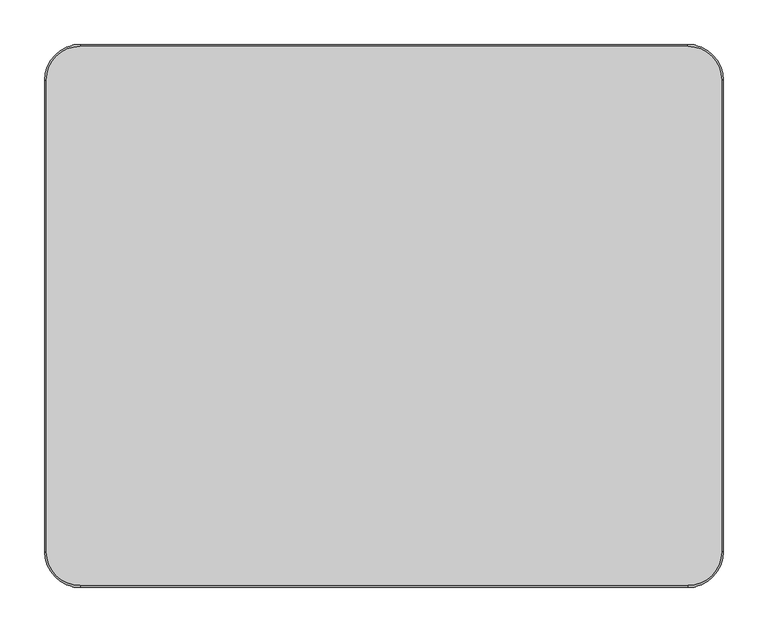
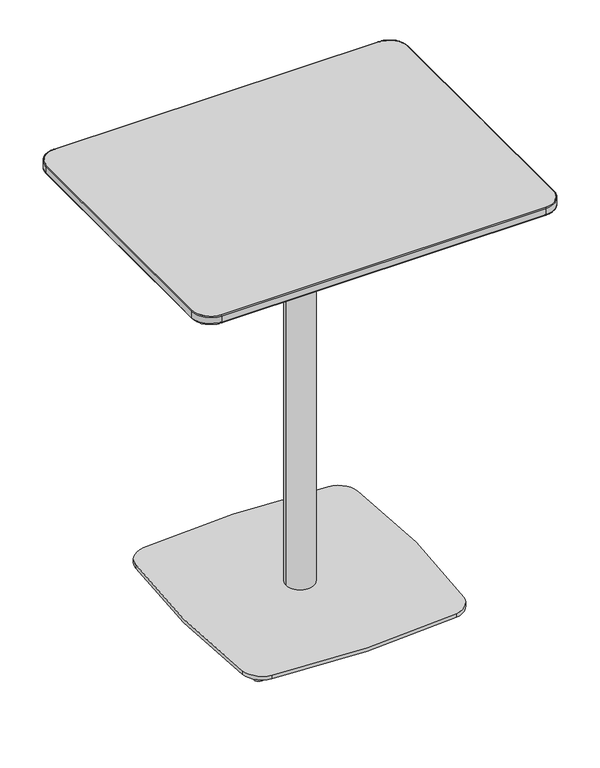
"""IFC4 building model written with IfcOpenShell, lengths in millimetres: furniture geometry, Coalesse_AM_Table_Occasional_Montara650Table_CafeHeight_Rectangular : Counter Height - 24D x 30W."""

import ifcopenshell
import ifcopenshell.guid

model = None  # the IFC model being written
_history = None  # IfcOwnerHistory: only IFC2X3 demands one
_inside = {}  # id of a spatial element -> (the spatial element, [elements in it])
_under = {}  # id of a project, library or spatial element -> (it, [spatial elements below it])
_declared = {}  # id of a project -> (the project, [libraries it declares])
_typed = {}  # id of a type object -> (the type object, [elements of that type])
_made_of = {}  # id of a material, layer set ... -> (it, [elements and type objects made of it])


def new_model(schema):
    """Start an empty IFC model of exactly this schema.

    Asked for "IFC4X3", IfcOpenShell would pick the latest addendum, in which some entities
    have other attributes; the version numbers below select the first issue.
    IFC2X3 requires an IfcOwnerHistory on every rooted entity: one is made here for all.
    """
    global model, _history
    if schema == "IFC4X3":
        model = ifcopenshell.file(schema_version=(4, 3, 0, 0))
    else:
        model = ifcopenshell.file(schema=schema)
    _inside.clear()
    _under.clear()
    _declared.clear()
    _typed.clear()
    _made_of.clear()
    _history = None
    if model.schema == "IFC2X3":
        org = make("IfcOrganization", Name="unknown")
        user = make(
            "IfcPersonAndOrganization",
            ThePerson=make("IfcPerson", FamilyName="unknown"),
            TheOrganization=org,
        )
        app = make(
            "IfcApplication",
            ApplicationDeveloper=org,
            Version="unknown",
            ApplicationFullName="unknown",
            ApplicationIdentifier="unknown",
        )
        _history = make(
            "IfcOwnerHistory",
            OwningUser=user,
            OwningApplication=app,
            ChangeAction="ADDED",
            CreationDate=0,
        )
    return model


def make(cls, **values):
    """One entity of the class cls with the attributes given. An attribute that is None is left unset."""
    return model.create_entity(
        cls, **{name: value for name, value in values.items() if value is not None}
    )


def rooted(cls, **values):
    """An entity with a GlobalId (a new one), such as an element, a storey or a relation."""
    return make(cls, GlobalId=ifcopenshell.guid.new(), OwnerHistory=_history, **values)


def si_unit(unit_type, name, prefix=None):
    """IfcSIUnit, for example si_unit("LENGTHUNIT", "METRE", prefix="MILLI")."""
    return make("IfcSIUnit", UnitType=unit_type, Prefix=prefix, Name=name)


def assignment(units):
    """IfcUnitAssignment: the units of a project."""
    return None if units is None else make("IfcUnitAssignment", Units=units)


def point(xyz):
    """IfcCartesianPoint."""
    return None if xyz is None else make("IfcCartesianPoint", Coordinates=xyz)


def direction(xyz):
    """IfcDirection."""
    return None if xyz is None else make("IfcDirection", DirectionRatios=xyz)


def frame(location, z_axis=None, x_axis=None):
    """IfcAxis2Placement3D, a coordinate frame: its origin and axes. An axis left out is left unset."""
    return make(
        "IfcAxis2Placement3D",
        Location=point(location),
        Axis=direction(z_axis),
        RefDirection=direction(x_axis),
    )


def frame_2d(location, x_axis=None):
    """IfcAxis2Placement2D, a coordinate frame in the plane: its origin and x axis."""
    return make(
        "IfcAxis2Placement2D", Location=point(location), RefDirection=direction(x_axis)
    )


def origin():
    """The frame at (0, 0, 0) with its axes left unset."""
    return frame((0.0, 0.0, 0.0))


def place(relative_to, where):
    """IfcLocalPlacement: puts the frame where relative to a parent placement (None: the world)."""
    return make(
        "IfcLocalPlacement", PlacementRelTo=relative_to, RelativePlacement=where
    )


def context(
    kind, dimensions, precision=None, world=None, true_north=None, identifier=None
):
    """IfcGeometricRepresentationContext, for example the 3D "Model" context."""
    return make(
        "IfcGeometricRepresentationContext",
        ContextIdentifier=identifier,
        ContextType=kind,
        CoordinateSpaceDimension=dimensions,
        Precision=precision,
        WorldCoordinateSystem=world,
        TrueNorth=true_north,
    )


def project(units=None, contexts=None):
    """IfcProject with its units and contexts."""
    return rooted(
        "IfcProject",
        Name="project",
        RepresentationContexts=contexts,
        UnitsInContext=assignment(units),
    )


def spatial(cls, under=None, at=None, **own):
    """A site, building, storey or space (cls), placed at a placement, below another one or the project."""
    s = rooted(cls, ObjectPlacement=at, **own)
    if under is not None:
        _under.setdefault(under.id(), (under, []))[1].append(s)
    return s


def polyline(points):
    """IfcPolyline through the points."""
    return make("IfcPolyline", Points=[point(p) for p in points])


def circle_curve(where, radius):
    """IfcCircle in the frame where."""
    return make("IfcCircle", Position=where, Radius=radius)


def ellipse_curve(where, semi_axis1, semi_axis2):
    """IfcEllipse in the frame where."""
    return make(
        "IfcEllipse", Position=where, SemiAxis1=semi_axis1, SemiAxis2=semi_axis2
    )


def trimmed(basis, trim1, trim2, sense, master):
    """IfcTrimmedCurve: the piece of a basis curve between two trims."""
    return make(
        "IfcTrimmedCurve",
        BasisCurve=basis,
        Trim1=trim1,
        Trim2=trim2,
        SenseAgreement=sense,
        MasterRepresentation=master,
    )


def segment(curve, same_sense, transition):
    """IfcCompositeCurveSegment."""
    return make(
        "IfcCompositeCurveSegment",
        Transition=transition,
        SameSense=same_sense,
        ParentCurve=curve,
    )


def composite_curve(segments, self_intersect=None):
    """IfcCompositeCurve: segments joined end to end."""
    return make("IfcCompositeCurve", Segments=segments, SelfIntersect=self_intersect)


def outline(outer, holes=None, kind="AREA"):
    """IfcArbitraryClosedProfileDef: a profile drawn as a closed curve; with holes, ...WithVoids."""
    if holes is None:
        return make("IfcArbitraryClosedProfileDef", ProfileType=kind, OuterCurve=outer)
    return make(
        "IfcArbitraryProfileDefWithVoids",
        ProfileType=kind,
        OuterCurve=outer,
        InnerCurves=holes,
    )


def extrude(swept, where, along, depth):
    """IfcExtrudedAreaSolid: the profile swept, set in the frame where, extruded along a direction by depth."""
    return make(
        "IfcExtrudedAreaSolid",
        SweptArea=swept,
        Position=where,
        ExtrudedDirection=direction(along),
        Depth=depth,
    )


def shape(context_of_items, identifier, shape_type, items):
    """IfcShapeRepresentation: the items that make up one representation, for example the "Body"."""
    return make(
        "IfcShapeRepresentation",
        ContextOfItems=context_of_items,
        RepresentationIdentifier=identifier,
        RepresentationType=shape_type,
        Items=items,
    )


def source(mapping_origin, context_of_items, identifier, shape_type, items):
    """IfcRepresentationMap: a shape defined once, which mapped items show again and again."""
    return make(
        "IfcRepresentationMap",
        MappingOrigin=mapping_origin,
        MappedRepresentation=shape(context_of_items, identifier, shape_type, items),
    )


def transform(
    local_origin,
    x_axis=None,
    y_axis=None,
    z_axis=None,
    scale=None,
    scale2=None,
    scale3=None,
    uniform=True,
):
    """IfcCartesianTransformationOperator3D, or its non-uniform kind. x_axis, y_axis, z_axis: its Axis1, 2, 3."""
    if uniform:
        return make(
            "IfcCartesianTransformationOperator3D",
            Axis1=direction(x_axis),
            Axis2=direction(y_axis),
            LocalOrigin=point(local_origin),
            Scale=scale,
            Axis3=direction(z_axis),
        )
    return make(
        "IfcCartesianTransformationOperator3DnonUniform",
        Axis1=direction(x_axis),
        Axis2=direction(y_axis),
        LocalOrigin=point(local_origin),
        Scale=scale,
        Axis3=direction(z_axis),
        Scale2=scale2,
        Scale3=scale3,
    )


def mapped(mapping_source, mapping_target):
    """IfcMappedItem: shows the shape of a source again, moved by a transform."""
    return make(
        "IfcMappedItem", MappingSource=mapping_source, MappingTarget=mapping_target
    )


def made_of(thing, what):
    """Note that an element or type object is made of a material, layer set ...; save() writes the relation."""
    if what is not None:
        _made_of.setdefault(what.id(), (what, []))[1].append(thing)
    return thing


def element(
    cls,
    number,
    at=None,
    inside=None,
    cuts=None,
    type_object=None,
    material=None,
    context=None,
    identifier="Body",
    shape_type=None,
    held_by="IfcProductDefinitionShape",
    body=None,
    shapes=None,
    **own,
):
    """One element of the class cls, such as IfcWall. Its Tag is "e" and its number.

    at: its placement. inside: the storey or other place that contains it. cuts: it is an
    opening in that element (IfcRelVoidsElement). A single representation is given by context,
    identifier, shape_type and body (its items); several are given by shapes. held_by: the class
    of the entity that holds the representations. save() writes the other relations.
    """
    e = rooted(cls, Tag="e%d" % number, ObjectPlacement=at, **own)
    if body is not None:
        shapes = [shape(context, identifier, shape_type, body)]
    if shapes is not None:
        e.Representation = make(held_by, Representations=shapes)
    if inside is not None:
        _inside.setdefault(inside.id(), (inside, []))[1].append(e)
    if cuts is not None:
        rooted(
            "IfcRelVoidsElement", RelatingBuildingElement=cuts, RelatedOpeningElement=e
        )
    if type_object is not None:
        _typed.setdefault(type_object.id(), (type_object, []))[1].append(e)
    return made_of(e, material)


def aggregate(whole, parts):
    """IfcRelAggregates: a whole, such as a stair, and the parts it consists of."""
    return rooted("IfcRelAggregates", RelatingObject=whole, RelatedObjects=parts)


def save(model, path):
    """Write the relations noted so far, then the file.

    IfcRelAggregates (storeys below a building ...), IfcRelContainedInSpatialStructure (elements
    in a storey), IfcRelDefinesByType, IfcRelAssociatesMaterial and IfcRelDeclares: one each for
    every whole, place, type object, material and project.
    """
    for whole, parts in _under.values():
        aggregate(whole, parts)
    for where, things in _inside.values():
        rooted(
            "IfcRelContainedInSpatialStructure",
            RelatedElements=things,
            RelatingStructure=where,
        )
    for kind, things in _typed.values():
        rooted("IfcRelDefinesByType", RelatedObjects=things, RelatingType=kind)
    for what, things in _made_of.values():
        rooted("IfcRelAssociatesMaterial", RelatedObjects=things, RelatingMaterial=what)
    for by, libraries in _declared.values():
        rooted("IfcRelDeclares", RelatingContext=by, RelatedDefinitions=libraries)
    model.write(path)


def plane_surface(at):
    """IfcPlane: the flat surface through the origin of the frame at, square to its z axis."""
    return make("IfcPlane", Position=at)


def cylinder_surface(at, radius):
    """IfcCylindricalSurface: all points at the distance radius from the z axis of the frame at."""
    return make("IfcCylindricalSurface", Position=at, Radius=radius)


def revolved_surface(curve, axis_point, axis_direction):
    """IfcSurfaceOfRevolution: the curve turned about the line through axis_point along axis_direction."""
    return make(
        "IfcSurfaceOfRevolution",
        SweptCurve=make("IfcArbitraryOpenProfileDef", ProfileType="CURVE", Curve=curve),
        AxisPosition=make("IfcAxis1Placement", Location=point(axis_point), Axis=direction(axis_direction)),
    )


def spline_surface(u_degree, v_degree, points, u_multiplicities, v_multiplicities, u_knots, v_knots, weights=None):
    """IfcBSplineSurfaceWithKnots; with weights, IfcRationalBSplineSurfaceWithKnots. points: one row for each step in u."""
    own = dict(
        UDegree=u_degree,
        VDegree=v_degree,
        ControlPointsList=[[point(p) for p in row] for row in points],
        SurfaceForm="UNSPECIFIED",
        UClosed=False,
        VClosed=False,
        SelfIntersect=False,
        UMultiplicities=u_multiplicities,
        VMultiplicities=v_multiplicities,
        UKnots=u_knots,
        VKnots=v_knots,
        KnotSpec="UNSPECIFIED",
    )
    if weights is None:
        return make("IfcBSplineSurfaceWithKnots", **own)
    return make("IfcRationalBSplineSurfaceWithKnots", WeightsData=weights, **own)


def advanced_brep(points, edges, surfaces, faces):
    """IfcAdvancedBrep: a solid bounded by faces that lie on surfaces and meet in shared edges.

    An edge is (start, end): straight between two places in points (the first is 0);
    or (start, end, curve); or (start, end, curve, False) where it runs against its curve.
    A face is (place in surfaces, loops), or (place, loops, False) where it looks against
    its surface's normal. A loop lists edges by number (the first is 1), with a minus sign
    where the edge is run from its end to its start. The first loop is the outer one.
    """
    corners = [point(p) for p in points]
    vertices = [make("IfcVertexPoint", VertexGeometry=c) for c in corners]
    made = []
    for start, end, *more in edges:
        made.append(
            make(
                "IfcEdgeCurve",
                EdgeStart=vertices[start],
                EdgeEnd=vertices[end],
                EdgeGeometry=more[0] if more else make("IfcPolyline", Points=[corners[start], corners[end]]),
                SameSense=more[1] if len(more) > 1 else True,
            )
        )
    hull = []
    for where, loops, *sense in faces:
        bounds = []
        for j, loop in enumerate(loops):
            ring = [make("IfcOrientedEdge", EdgeElement=made[abs(k) - 1], Orientation=k > 0) for k in loop]
            bounds.append(
                make(
                    "IfcFaceOuterBound" if j == 0 else "IfcFaceBound",
                    Bound=make("IfcEdgeLoop", EdgeList=ring),
                    Orientation=True,
                )
            )
        hull.append(make("IfcAdvancedFace", Bounds=bounds, FaceSurface=surfaces[where], SameSense=sense[0] if sense else True))
    return make("IfcAdvancedBrep", Outer=make("IfcClosedShell", CfsFaces=hull))


def furniture_5131879e(model_context):
    return source(origin(), model_context, "Body", "SolidModel", [
        advanced_brep(
        [(-738.6535608, 215.2429015, 0.0), (-738.6535608, 194.5411546, 0.0), (-738.6535608, 219.370028, 11.9999882), (-738.6535608, 190.414028, 11.9999882)],
        [
            (0, 1, circle_curve(frame((-738.6535608, 204.892028, 0.0), z_axis=(0.0, 0.0, -1.0), x_axis=(0.0, 1.0, 0.0)), 10.3508735)),
            (1, 0, circle_curve(frame((-738.6535608, 204.892028, 0.0), z_axis=(0.0, 0.0, -1.0), x_axis=(0.0, -1.0, 0.0)), 10.3508735)),
            (2, 3, circle_curve(frame((-738.6535608, 204.892028, 11.9999882), z_axis=(0.0, 0.0, 1.0), x_axis=(0.0, -1.0, 0.0)), 14.478)),
            (3, 2, circle_curve(frame((-738.6535608, 204.892028, 11.9999882), z_axis=(0.0, 0.0, 1.0), x_axis=(0.0, 1.0, 0.0)), 14.478)),
            (2, 0),
            (1, 3),
        ],
        [
            plane_surface(frame((-738.6535608, 204.892028, 0.0), z_axis=(0.0, 0.0, -1.0), x_axis=(-1.0, 0.0, 0.0))),
            plane_surface(frame((-738.6535608, 204.892028, 11.9999882), z_axis=(0.0, 0.0, 1.0), x_axis=(-1.0, 0.0, 0.0))),
            revolved_surface(polyline([(-738.6535608, 194.5411545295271, 0.0), (-738.6535608, 190.414028, 11.999988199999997)]), (-738.6535608, 204.892028, -30.0960871), (0.0, 0.0, 1.0)),
            revolved_surface(polyline([(-738.6535608, 215.2429014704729, 0.0), (-738.6535608, 219.370028, 11.999988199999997)]), (-738.6535608, 204.892028, -30.0960871), (0.0, 0.0, 1.0)),
        ],
        [
            (0, [[1, 2]]),
            (1, [[3, 4]]),
            (2, [[-3, 5, -2, 6]]),
            (3, [[-4, -6, -1, -5]]),
        ],
    ),
        advanced_brep(
        [(-738.6535608, -194.5411546, 0.0), (-738.6535608, -215.2429015, 0.0), (-738.6535608, -190.414028, 11.9999882), (-738.6535608, -219.370028, 11.9999882)],
        [
            (0, 1, circle_curve(frame((-738.6535608, -204.892028, 0.0), z_axis=(0.0, 0.0, -1.0), x_axis=(0.0, 1.0, 0.0)), 10.3508735)),
            (1, 0, circle_curve(frame((-738.6535608, -204.892028, 0.0), z_axis=(0.0, 0.0, -1.0), x_axis=(0.0, -1.0, 0.0)), 10.3508735)),
            (2, 3, circle_curve(frame((-738.6535608, -204.892028, 11.9999882), z_axis=(0.0, 0.0, 1.0), x_axis=(0.0, -1.0, 0.0)), 14.478)),
            (3, 2, circle_curve(frame((-738.6535608, -204.892028, 11.9999882), z_axis=(0.0, 0.0, 1.0), x_axis=(0.0, 1.0, 0.0)), 14.478)),
            (3, 1),
            (0, 2),
        ],
        [
            plane_surface(frame((-738.6535608, -204.892028, 0.0), z_axis=(0.0, 0.0, -1.0), x_axis=(-1.0, 0.0, 0.0))),
            plane_surface(frame((-738.6535608, -204.892028, 11.9999882), z_axis=(0.0, 0.0, 1.0), x_axis=(-1.0, 0.0, 0.0))),
            revolved_surface(polyline([(-738.6535608, -194.5411545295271, 0.0), (-738.6535608, -190.414028, 11.999988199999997)]), (-738.6535608, -204.892028, -30.0960871), (0.0, 0.0, 1.0)),
            revolved_surface(polyline([(-738.6535608, -215.2429014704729, 0.0), (-738.6535608, -219.370028, 11.999988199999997)]), (-738.6535608, -204.892028, -30.0960871), (0.0, 0.0, 1.0)),
        ],
        [
            (0, [[1, 2]]),
            (1, [[3, 4]]),
            (2, [[-4, 5, -1, 6]]),
            (3, [[-3, -6, -2, -5]]),
        ],
    ),
        advanced_brep(
        [(-328.1464392, 194.5411546, 0.0), (-328.1464392, 215.2429015, 0.0), (-328.1464392, 190.414028, 11.9999882), (-328.1464392, 219.370028, 11.9999882)],
        [
            (0, 1, circle_curve(frame((-328.1464392, 204.892028, 0.0), z_axis=(0.0, 0.0, -1.0), x_axis=(0.0, -1.0, 0.0)), 10.3508735)),
            (1, 0, circle_curve(frame((-328.1464392, 204.892028, 0.0), z_axis=(0.0, 0.0, -1.0), x_axis=(0.0, 1.0, 0.0)), 10.3508735)),
            (2, 3, circle_curve(frame((-328.1464392, 204.892028, 11.9999882), z_axis=(0.0, 0.0, 1.0), x_axis=(0.0, 1.0, 0.0)), 14.478)),
            (3, 2, circle_curve(frame((-328.1464392, 204.892028, 11.9999882), z_axis=(0.0, 0.0, 1.0), x_axis=(0.0, -1.0, 0.0)), 14.478)),
            (3, 1),
            (0, 2),
        ],
        [
            plane_surface(frame((-328.1464392, 204.892028, 0.0), z_axis=(0.0, 0.0, -1.0), x_axis=(1.0, 0.0, 0.0))),
            plane_surface(frame((-328.1464392, 204.892028, 11.9999882), z_axis=(0.0, 0.0, 1.0), x_axis=(1.0, 0.0, 0.0))),
            revolved_surface(polyline([(-328.1464392, 194.5411545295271, 0.0), (-328.1464392, 190.414028, 11.999988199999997)]), (-328.1464392, 204.892028, -30.0960871), (0.0, 0.0, 1.0)),
            revolved_surface(polyline([(-328.1464392, 215.2429014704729, 0.0), (-328.1464392, 219.370028, 11.999988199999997)]), (-328.1464392, 204.892028, -30.0960871), (0.0, 0.0, 1.0)),
        ],
        [
            (0, [[1, 2]]),
            (1, [[3, 4]]),
            (2, [[-4, 5, -1, 6]]),
            (3, [[-3, -6, -2, -5]]),
        ],
    ),
        advanced_brep(
        [(-328.1464392, -215.2429015, 0.0), (-328.1464392, -194.5411546, 0.0), (-328.1464392, -219.370028, 11.9999882), (-328.1464392, -190.414028, 11.9999882)],
        [
            (0, 1, circle_curve(frame((-328.1464392, -204.892028, 0.0), z_axis=(0.0, 0.0, -1.0), x_axis=(0.0, -1.0, 0.0)), 10.3508735)),
            (1, 0, circle_curve(frame((-328.1464392, -204.892028, 0.0), z_axis=(0.0, 0.0, -1.0), x_axis=(0.0, 1.0, 0.0)), 10.3508735)),
            (2, 3, circle_curve(frame((-328.1464392, -204.892028, 11.9999882), z_axis=(0.0, 0.0, 1.0), x_axis=(0.0, 1.0, 0.0)), 14.478)),
            (3, 2, circle_curve(frame((-328.1464392, -204.892028, 11.9999882), z_axis=(0.0, 0.0, 1.0), x_axis=(0.0, -1.0, 0.0)), 14.478)),
            (2, 0),
            (1, 3),
        ],
        [
            plane_surface(frame((-328.1464392, -204.892028, 0.0), z_axis=(0.0, 0.0, -1.0), x_axis=(1.0, 0.0, 0.0))),
            plane_surface(frame((-328.1464392, -204.892028, 11.9999882), z_axis=(0.0, 0.0, 1.0), x_axis=(1.0, 0.0, 0.0))),
            revolved_surface(polyline([(-328.1464392, -194.5411545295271, 0.0), (-328.1464392, -190.414028, 11.999988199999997)]), (-328.1464392, -204.892028, -30.0960871), (0.0, 0.0, 1.0)),
            revolved_surface(polyline([(-328.1464392, -215.2429014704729, 0.0), (-328.1464392, -219.370028, 11.999988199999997)]), (-328.1464392, -204.892028, -30.0960871), (0.0, 0.0, 1.0)),
        ],
        [
            (0, [[1, 2]]),
            (1, [[3, 4]]),
            (2, [[-3, 5, -2, 6]]),
            (3, [[-4, -6, -1, -5]]),
        ],
    ),
        extrude(outline(composite_curve([segment(trimmed(circle_curve(frame_2d((-344.0811518, 188.9781952)), 44.45), [point((-338.9758413, 233.1340363))], [point((-299.9290283, 194.115557))], False, "CARTESIAN"), True, "CONTINUOUS"), segment(trimmed(circle_curve(frame_2d((-1930.9488879, 4.3367087)), 1642.0236885), [point((-299.9290283, 194.115557))], [point((-300.9116252, -193.704489))], False, "CARTESIAN"), True, "CONTINUOUS"), segment(trimmed(circle_curve(frame_2d((-345.0371496, -188.3434633)), 44.45), [point((-300.9116252, -193.704489))], [point((-339.4996689, -232.4471911))], False, "CARTESIAN"), True, "CONTINUOUS"), segment(trimmed(circle_curve(frame_2d((-537.7367152, 1346.4283112)), 1591.2717488), [point((-339.4996689, -232.4471911))], [point((-727.977927, -233.4305622))], False, "CARTESIAN"), True, "CONTINUOUS"), segment(trimmed(circle_curve(frame_2d((-722.663799, -189.2993652)), 44.45), [point((-727.977927, -233.4305622))], [point((-766.838325, -194.2403925))], False, "CARTESIAN"), True, "CONTINUOUS"), segment(trimmed(circle_curve(frame_2d((969.7397991, 5.89e-05)), 1747.4074894), [point((-766.838325, -194.2403925))], [point((-766.8410299, 194.2163254))], False, "CARTESIAN"), True, "CONTINUOUS"), segment(trimmed(circle_curve(frame_2d((-722.6664351, 189.2759133)), 44.45), [point((-766.8410299, 194.2163254))], [point((-727.7022914, 233.4397294))], False, "CARTESIAN"), True, "CONTINUOUS"), segment(trimmed(circle_curve(frame_2d((-534.6702107, -1459.4269529)), 1703.8365498), [point((-727.7022914, 233.4397294))], [point((-338.9758413, 233.1340363))], False, "CARTESIAN"), True, "CONTINUOUS")], self_intersect=False)), frame((0.0, 0.0, 11.999986), z_axis=(0.0, 0.0, 1.0), x_axis=(1.0, 0.0, 0.0)), (0.0, 0.0, 1.0), 8.0000105),
        advanced_brep(
        [(-217.3373638, 239.8635082, 884.430027), (-217.3373638, -239.8635082, 884.430027), (-849.4626362, -239.8635082, 884.430027), (-849.4626362, 239.8635082, 884.430027), (-192.611375, 302.768, 896.695891), (-874.188625, 302.768, 896.695891), (-912.288625, 264.668, 896.695891), (-912.288625, -264.668, 896.695891), (-874.188625, -302.768, 896.695891), (-192.611375, -302.768, 896.695891), (-154.511375, -264.668, 896.695891), (-154.511375, 264.668, 896.695891)],
        [
            (0, 1),
            (1, 2),
            (2, 3),
            (3, 0),
            (4, 5),
            (5, 6, circle_curve(frame((-874.188625, 264.668, 896.695891), z_axis=(0.0, 0.0, 1.0), x_axis=(1.0, 0.0, 0.0)), 38.1)),
            (6, 7),
            (7, 8, circle_curve(frame((-874.188625, -264.668, 896.695891), z_axis=(0.0, 0.0, 1.0), x_axis=(1.0, 0.0, 0.0)), 38.1)),
            (8, 9),
            (9, 10, circle_curve(frame((-192.611375, -264.668, 896.695891), z_axis=(0.0, 0.0, 1.0), x_axis=(1.0, 0.0, 0.0)), 38.1)),
            (10, 11),
            (11, 4, circle_curve(frame((-192.611375, 264.668, 896.695891), z_axis=(0.0, 0.0, 1.0), x_axis=(1.0, 0.0, 0.0)), 38.1)),
            (11, 0),
            (0, 4),
            (10, 1),
            (9, 1),
            (8, 2),
            (7, 2),
            (6, 3),
            (5, 3),
        ],
        [
            plane_surface(frame((-533.4, 0.0, 884.430027), z_axis=(0.0, 0.0, -1.0), x_axis=(-1.0, 0.0, 0.0))),
            plane_surface(frame((-533.4, 0.0, 896.695891), z_axis=(0.0, 0.0, 1.0), x_axis=(-1.0, 0.0, 0.0))),
            spline_surface(2, 1, [[(-192.611375, 302.768, 896.695891), (-217.3373638, 239.8635082, 884.430027)], [(-154.51137500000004, 302.7679999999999, 896.695891), (-217.3373638, 239.8635082, 884.430027)], [(-154.511375, 264.668, 896.695891), (-217.3373638, 239.8635082, 884.430027)]], [3, 3], [2, 2], [0.0, 1.0], [0.0, 1.0], weights=[[1.0, 1.0], [0.7071067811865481, 0.7071067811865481], [1.0, 1.0]]),
            plane_surface(frame((-154.511375, 0.0, 896.695891), z_axis=(0.1916177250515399, 0.0, -0.9814696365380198), x_axis=(0.0, -1.0, 0.0))),
            spline_surface(2, 1, [[(-154.511375, -264.668, 896.695891), (-217.3373638, -239.8635082, 884.430027)], [(-154.51137499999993, -302.76800000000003, 896.695891), (-217.3373638, -239.8635082, 884.430027)], [(-192.611375, -302.768, 896.695891), (-217.3373638, -239.8635082, 884.430027)]], [3, 3], [2, 2], [0.0, 1.0], [0.0, 1.0], weights=[[1.0, 1.0], [0.707106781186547, 0.707106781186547], [1.0, 1.0]]),
            plane_surface(frame((-533.4, -302.768, 896.695891), z_axis=(0.0, -0.1913873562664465, -0.9815145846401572), x_axis=(-1.0, 0.0, 0.0))),
            spline_surface(2, 1, [[(-874.188625, -302.768, 896.695891), (-849.4626362, -239.8635082, 884.430027)], [(-912.2886249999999, -302.7679999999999, 896.695891), (-849.4626362, -239.8635082, 884.430027)], [(-912.288625, -264.668, 896.695891), (-849.4626362, -239.8635082, 884.430027)]], [3, 3], [2, 2], [0.0, 1.0], [0.0, 1.0], weights=[[1.0, 1.0], [0.7071067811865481, 0.7071067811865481], [1.0, 1.0]]),
            plane_surface(frame((-912.288625, 0.0, 896.695891), z_axis=(-0.19161772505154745, 0.0, -0.9814696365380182), x_axis=(0.0, 1.0, 0.0))),
            spline_surface(2, 1, [[(-912.288625, 264.668, 896.695891), (-849.4626362, 239.8635082, 884.430027)], [(-912.2886250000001, 302.76800000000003, 896.695891), (-849.4626362, 239.8635082, 884.430027)], [(-874.188625, 302.768, 896.695891), (-849.4626362, 239.8635082, 884.430027)]], [3, 3], [2, 2], [0.0, 1.0], [0.0, 1.0], weights=[[1.0, 1.0], [0.707106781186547, 0.707106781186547], [1.0, 1.0]]),
            plane_surface(frame((-533.4, 302.768, 896.695891), z_axis=(0.0, 0.1913873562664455, -0.9815145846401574), x_axis=(1.0, 0.0, 0.0))),
        ],
        [
            (0, [[1, 2, 3, 4]]),
            (1, [[5, 6, 7, 8, 9, 10, 11, 12]]),
            (2, [[-12, 13, 14]]),
            (3, [[-11, 15, -1, -13]]),
            (4, [[-10, 16, -15]]),
            (5, [[-9, 17, -2, -16]]),
            (6, [[-8, 18, -17]]),
            (7, [[-7, 19, -3, -18]]),
            (8, [[-6, 20, -19]]),
            (9, [[-5, -14, -4, -20]]),
        ],
    ),
        extrude(outline(composite_curve([segment(trimmed(circle_curve(frame_2d((-192.611375, 264.668)), 38.1), [point((-192.611375, 302.768))], [point((-154.511375, 264.668))], False, "CARTESIAN"), True, "CONTINUOUS"), segment(polyline([(-154.511375, 264.668), (-154.511375, -264.668)]), True, "CONTINUOUS"), segment(trimmed(circle_curve(frame_2d((-192.611375, -264.668)), 38.1), [point((-154.511375, -264.668))], [point((-192.611375, -302.768))], False, "CARTESIAN"), True, "CONTINUOUS"), segment(polyline([(-192.611375, -302.768), (-874.188625, -302.768)]), True, "CONTINUOUS"), segment(trimmed(circle_curve(frame_2d((-874.188625, -264.668)), 38.1), [point((-874.188625, -302.768))], [point((-912.288625, -264.668))], False, "CARTESIAN"), True, "CONTINUOUS"), segment(polyline([(-912.288625, -264.668), (-912.288625, 264.668)]), True, "CONTINUOUS"), segment(trimmed(circle_curve(frame_2d((-874.188625, 264.668)), 38.1), [point((-912.288625, 264.668))], [point((-874.188625, 302.768))], False, "CARTESIAN"), True, "CONTINUOUS"), segment(polyline([(-874.188625, 302.768), (-192.611375, 302.768)]), True, "CONTINUOUS")], self_intersect=False)), frame((0.0, 0.0, 896.695891), z_axis=(0.0, 0.0, 1.0), x_axis=(1.0, 0.0, 0.0)), (0.0, 0.0, 1.0), 17.704109),
        advanced_brep(
        [(-914.3644915, 264.668, 898.6278467), (-874.188625, 304.8438665, 898.6278467), (-874.188625, 302.768, 896.695891), (-912.288625, 264.668, 896.695891), (-914.3644915, 264.668, 912.3999283), (-874.188625, 304.8438665, 912.3999283), (-912.288625, 264.668, 914.4), (-874.188625, 302.768, 914.4), (-912.288625, -264.668, 896.695891), (-914.3644915, -264.668, 898.6278467), (-914.3644915, -264.668, 912.3999283), (-912.288625, -264.668, 914.4), (-874.188625, -304.8438665, 898.6278467), (-874.188625, -302.768, 896.695891), (-874.188625, -304.8438665, 912.3999283), (-874.188625, -302.768, 914.4), (-192.611375, -302.768, 896.695891), (-192.611375, -304.8438665, 898.6278467), (-192.611375, -304.8438665, 912.3999283), (-192.611375, -302.768, 914.4), (-152.4355085, -264.668, 898.6278467), (-154.511375, -264.668, 896.695891), (-152.4355085, -264.668, 912.3999283), (-154.511375, -264.668, 914.4), (-154.511375, 264.668, 896.695891), (-152.4355085, 264.668, 898.6278467), (-152.4355085, 264.668, 912.3999283), (-154.511375, 264.668, 914.4), (-192.611375, 304.8438665, 898.6278467), (-192.611375, 302.768, 896.695891), (-192.611375, 304.8438665, 912.3999283), (-192.611375, 302.768, 914.4)],
        [
            (0, 1, circle_curve(frame((-874.188625, 264.668, 898.6278467), z_axis=(0.0, 0.0, -1.0), x_axis=(0.0, 1.0, 0.0)), 40.1758665)),
            (1, 2, circle_curve(frame((-874.188625, 302.9069224, 898.6278467), z_axis=(-1.0, 0.0, 0.0), x_axis=(0.0, -1.0, 0.0)), 1.9369441)),
            (2, 3, circle_curve(frame((-874.188625, 264.668, 896.695891), z_axis=(0.0, 0.0, 1.0), x_axis=(0.0, 1.0, 0.0)), 38.1)),
            (3, 0, circle_curve(frame((-912.4275474, 264.668, 898.6278467), z_axis=(0.0, 1.0, 0.0), x_axis=(1.0, 0.0, 0.0)), 1.9369441)),
            (4, 5, circle_curve(frame((-874.188625, 264.668, 912.3999283), z_axis=(0.0, 0.0, -1.0), x_axis=(0.0, 1.0, 0.0)), 40.1758665)),
            (5, 1),
            (0, 4),
            (6, 7, circle_curve(frame((-874.188625, 264.668, 914.4), z_axis=(0.0, 0.0, -1.0), x_axis=(0.0, 1.0, 0.0)), 38.1)),
            (7, 5, circle_curve(frame((-874.188625, 302.8424111, 912.3999283), z_axis=(-1.0, 0.0, 0.0), x_axis=(0.0, -1.0, 0.0)), 2.0014554)),
            (4, 6, circle_curve(frame((-912.3630361, 264.668, 912.3999283), z_axis=(0.0, 1.0, 0.0), x_axis=(1.0, 0.0, 0.0)), 2.0014554)),
            (2, 7),
            (6, 3),
            (3, 8),
            (8, 9, circle_curve(frame((-912.4275474, -264.668, 898.6278467), z_axis=(0.0, 1.0, 0.0), x_axis=(1.0, 0.0, 0.0)), 1.9369441)),
            (9, 0),
            (9, 10),
            (10, 4),
            (10, 11, circle_curve(frame((-912.3630361, -264.668, 912.3999283), z_axis=(0.0, 1.0, 0.0), x_axis=(1.0, 0.0, 0.0)), 2.0014554)),
            (11, 6),
            (11, 8),
            (12, 9, circle_curve(frame((-874.188625, -264.668, 898.6278467), z_axis=(0.0, 0.0, -1.0), x_axis=(-1.0, 0.0, 0.0)), 40.1758665)),
            (8, 13, circle_curve(frame((-874.188625, -264.668, 896.695891), z_axis=(0.0, 0.0, 1.0), x_axis=(-1.0, 0.0, 0.0)), 38.1)),
            (13, 12, circle_curve(frame((-874.188625, -302.9069224, 898.6278467), z_axis=(-1.0, 0.0, 0.0), x_axis=(0.0, 1.0, 0.0)), 1.9369441)),
            (14, 10, circle_curve(frame((-874.188625, -264.668, 912.3999283), z_axis=(0.0, 0.0, -1.0), x_axis=(-1.0, 0.0, 0.0)), 40.1758665)),
            (12, 14),
            (15, 11, circle_curve(frame((-874.188625, -264.668, 914.4), z_axis=(0.0, 0.0, -1.0), x_axis=(-1.0, 0.0, 0.0)), 38.1)),
            (14, 15, circle_curve(frame((-874.188625, -302.8424111, 912.3999283), z_axis=(-1.0, 0.0, 0.0), x_axis=(0.0, 1.0, 0.0)), 2.0014554)),
            (15, 13),
            (13, 16),
            (16, 17, circle_curve(frame((-192.611375, -302.9069224, 898.6278467), z_axis=(-1.0, 0.0, 0.0), x_axis=(0.0, 1.0, 0.0)), 1.9369441)),
            (17, 12),
            (17, 18),
            (18, 14),
            (18, 19, circle_curve(frame((-192.611375, -302.8424111, 912.3999283), z_axis=(-1.0, 0.0, 0.0), x_axis=(0.0, 1.0, 0.0)), 2.0014554)),
            (19, 15),
            (19, 16),
            (20, 17, circle_curve(frame((-192.611375, -264.668, 898.6278467), z_axis=(0.0, 0.0, -1.0), x_axis=(0.0, -1.0, 0.0)), 40.1758665)),
            (16, 21, circle_curve(frame((-192.611375, -264.668, 896.695891), z_axis=(0.0, 0.0, 1.0), x_axis=(0.0, -1.0, 0.0)), 38.1)),
            (21, 20, circle_curve(frame((-154.3724526, -264.668, 898.6278467), z_axis=(0.0, -1.0, 0.0), x_axis=(-1.0, 0.0, 0.0)), 1.9369441)),
            (22, 18, circle_curve(frame((-192.611375, -264.668, 912.3999283), z_axis=(0.0, 0.0, -1.0), x_axis=(0.0, -1.0, 0.0)), 40.1758665)),
            (20, 22),
            (23, 19, circle_curve(frame((-192.611375, -264.668, 914.4), z_axis=(0.0, 0.0, -1.0), x_axis=(0.0, -1.0, 0.0)), 38.1)),
            (22, 23, circle_curve(frame((-154.4369639, -264.668, 912.3999283), z_axis=(0.0, -1.0, 0.0), x_axis=(-1.0, 0.0, 0.0)), 2.0014554)),
            (23, 21),
            (21, 24),
            (24, 25, circle_curve(frame((-154.3724526, 264.668, 898.6278467), z_axis=(0.0, -1.0, 0.0), x_axis=(-1.0, 0.0, 0.0)), 1.9369441)),
            (25, 20),
            (25, 26),
            (26, 22),
            (26, 27, circle_curve(frame((-154.4369639, 264.668, 912.3999283), z_axis=(0.0, -1.0, 0.0), x_axis=(-1.0, 0.0, 0.0)), 2.0014554)),
            (27, 23),
            (27, 24),
            (28, 25, circle_curve(frame((-192.611375, 264.668, 898.6278467), z_axis=(0.0, 0.0, -1.0), x_axis=(1.0, 0.0, 0.0)), 40.1758665)),
            (24, 29, circle_curve(frame((-192.611375, 264.668, 896.695891), z_axis=(0.0, 0.0, 1.0), x_axis=(1.0, 0.0, 0.0)), 38.1)),
            (29, 28, circle_curve(frame((-192.611375, 302.9069224, 898.6278467), z_axis=(1.0, 0.0, 0.0), x_axis=(0.0, -1.0, 0.0)), 1.9369441)),
            (30, 26, circle_curve(frame((-192.611375, 264.668, 912.3999283), z_axis=(0.0, 0.0, -1.0), x_axis=(1.0, 0.0, 0.0)), 40.1758665)),
            (28, 30),
            (31, 27, circle_curve(frame((-192.611375, 264.668, 914.4), z_axis=(0.0, 0.0, -1.0), x_axis=(1.0, 0.0, 0.0)), 38.1)),
            (30, 31, circle_curve(frame((-192.611375, 302.8424111, 912.3999283), z_axis=(1.0, 0.0, 0.0), x_axis=(0.0, -1.0, 0.0)), 2.0014554)),
            (31, 29),
            (29, 2),
            (1, 28),
            (5, 30),
            (7, 31),
        ],
        [
            revolved_surface(trimmed(ellipse_curve(frame((-874.188625, 302.9069224, 898.6278467), z_axis=(1.0, 0.0, 0.0), x_axis=(0.0, -1.0, 0.0)), 1.9369441, 1.9369441), [point((-874.188625, 302.768, 896.695891))], [point((-874.188625, 304.8438665, 898.6278467))], True, "CARTESIAN"), (-874.188625, 264.668, 0.0), (0.0, 0.0, 1.0)),
            cylinder_surface(frame((-874.188625, 264.668, 0.0), z_axis=(0.0, 0.0, 1.0), x_axis=(0.0, 1.0, 0.0)), 40.1758665),
            revolved_surface(trimmed(ellipse_curve(frame((-874.188625, 302.8424111, 912.3999283), z_axis=(1.0, 0.0, 0.0), x_axis=(0.0, -1.0, 0.0)), 2.0014554, 2.0014554), [point((-874.188625, 304.8438665, 912.3999283))], [point((-874.188625, 302.768, 914.4))], True, "CARTESIAN"), (-874.188625, 264.668, 0.0), (0.0, 0.0, 1.0)),
            revolved_surface(polyline([(-874.188625, 302.76800000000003, 914.4), (-874.188625, 302.76800000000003, 896.695891)]), (-874.188625, 264.668, 0.0), (0.0, 0.0, 1.0)),
            cylinder_surface(frame((-912.4275474, 264.668, 898.6278467), z_axis=(0.0, 1.0, 0.0), x_axis=(1.0, 0.0, 0.0)), 1.9369441),
            plane_surface(frame((-914.3644915, 264.668, 898.6278467), z_axis=(-1.0, 0.0, 0.0), x_axis=(0.0, -1.0, 0.0))),
            cylinder_surface(frame((-912.3630361, 264.668, 912.3999283), z_axis=(0.0, 1.0, 0.0), x_axis=(1.0, 0.0, 0.0)), 2.0014554),
            plane_surface(frame((-912.288625, 264.668, 914.4), z_axis=(1.0, 0.0, 0.0), x_axis=(0.0, -1.0, 0.0))),
            revolved_surface(trimmed(ellipse_curve(frame((-912.4275474, -264.668, 898.6278467), z_axis=(0.0, 1.0, 0.0), x_axis=(1.0, 0.0, 0.0)), 1.9369441, 1.9369441), [point((-912.288625, -264.668, 896.695891))], [point((-914.3644915, -264.668, 898.6278467))], True, "CARTESIAN"), (-874.188625, -264.668, 0.0), (0.0, 0.0, 1.0)),
            cylinder_surface(frame((-874.188625, -264.668, 0.0), z_axis=(0.0, 0.0, 1.0), x_axis=(-1.0, 0.0, 0.0)), 40.1758665),
            revolved_surface(trimmed(ellipse_curve(frame((-912.3630361, -264.668, 912.3999283), z_axis=(0.0, 1.0, 0.0), x_axis=(1.0, 0.0, 0.0)), 2.0014554, 2.0014554), [point((-914.3644915, -264.668, 912.3999283))], [point((-912.288625, -264.668, 914.4))], True, "CARTESIAN"), (-874.188625, -264.668, 0.0), (0.0, 0.0, 1.0)),
            revolved_surface(polyline([(-912.288625, -264.668, 914.4), (-912.288625, -264.668, 896.695891)]), (-874.188625, -264.668, 0.0), (0.0, 0.0, 1.0)),
            cylinder_surface(frame((-874.188625, -302.9069224, 898.6278467), z_axis=(-1.0, 0.0, 0.0), x_axis=(0.0, 1.0, 0.0)), 1.9369441),
            plane_surface(frame((-874.188625, -304.8438665, 898.6278467), z_axis=(0.0, -1.0, 0.0), x_axis=(1.0, 0.0, 0.0))),
            cylinder_surface(frame((-874.188625, -302.8424111, 912.3999283), z_axis=(-1.0, 0.0, 0.0), x_axis=(0.0, 1.0, 0.0)), 2.0014554),
            plane_surface(frame((-874.188625, -302.768, 914.4), z_axis=(0.0, 1.0, 0.0), x_axis=(1.0, 0.0, 0.0))),
            revolved_surface(trimmed(ellipse_curve(frame((-192.611375, -302.9069224, 898.6278467), z_axis=(-1.0, 0.0, 0.0), x_axis=(0.0, 1.0, 0.0)), 1.9369441, 1.9369441), [point((-192.611375, -302.768, 896.695891))], [point((-192.611375, -304.8438665, 898.6278467))], True, "CARTESIAN"), (-192.611375, -264.668, 0.0), (0.0, 0.0, 1.0)),
            cylinder_surface(frame((-192.611375, -264.668, 0.0), z_axis=(0.0, 0.0, 1.0), x_axis=(0.0, -1.0, 0.0)), 40.1758665),
            revolved_surface(trimmed(ellipse_curve(frame((-192.611375, -302.8424111, 912.3999283), z_axis=(-1.0, 0.0, 0.0), x_axis=(0.0, 1.0, 0.0)), 2.0014554, 2.0014554), [point((-192.611375, -304.8438665, 912.3999283))], [point((-192.611375, -302.768, 914.4))], True, "CARTESIAN"), (-192.611375, -264.668, 0.0), (0.0, 0.0, 1.0)),
            revolved_surface(polyline([(-192.611375, -302.76800000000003, 914.4), (-192.611375, -302.76800000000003, 896.695891)]), (-192.611375, -264.668, 0.0), (0.0, 0.0, 1.0)),
            cylinder_surface(frame((-154.3724526, -264.668, 898.6278467), z_axis=(0.0, -1.0, 0.0), x_axis=(-1.0, 0.0, 0.0)), 1.9369441),
            plane_surface(frame((-152.4355085, -264.668, 898.6278467), z_axis=(1.0, 0.0, 0.0), x_axis=(0.0, 1.0, 0.0))),
            cylinder_surface(frame((-154.4369639, -264.668, 912.3999283), z_axis=(0.0, -1.0, 0.0), x_axis=(-1.0, 0.0, 0.0)), 2.0014554),
            plane_surface(frame((-154.511375, -264.668, 914.4), z_axis=(-1.0, 0.0, 0.0), x_axis=(0.0, 1.0, 0.0))),
            revolved_surface(trimmed(ellipse_curve(frame((-154.3724526, 264.668, 898.6278467), z_axis=(0.0, -1.0, 0.0), x_axis=(-1.0, 0.0, 0.0)), 1.9369441, 1.9369441), [point((-154.511375, 264.668, 896.695891))], [point((-152.4355085, 264.668, 898.6278467))], True, "CARTESIAN"), (-192.611375, 264.668, 0.0), (0.0, 0.0, 1.0)),
            cylinder_surface(frame((-192.611375, 264.668, 0.0), z_axis=(0.0, 0.0, 1.0), x_axis=(1.0, 0.0, 0.0)), 40.1758665),
            revolved_surface(trimmed(ellipse_curve(frame((-154.4369639, 264.668, 912.3999283), z_axis=(0.0, -1.0, 0.0), x_axis=(-1.0, 0.0, 0.0)), 2.0014554, 2.0014554), [point((-152.4355085, 264.668, 912.3999283))], [point((-154.511375, 264.668, 914.4))], True, "CARTESIAN"), (-192.611375, 264.668, 0.0), (0.0, 0.0, 1.0)),
            revolved_surface(polyline([(-154.51137500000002, 264.668, 914.4), (-154.51137500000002, 264.668, 896.695891)]), (-192.611375, 264.668, 0.0), (0.0, 0.0, 1.0)),
            cylinder_surface(frame((-192.611375, 302.9069224, 898.6278467), z_axis=(1.0, 0.0, 0.0), x_axis=(0.0, -1.0, 0.0)), 1.9369441),
            plane_surface(frame((-192.611375, 304.8438665, 898.6278467), z_axis=(0.0, 1.0, 0.0), x_axis=(-1.0, 0.0, 0.0))),
            cylinder_surface(frame((-192.611375, 302.8424111, 912.3999283), z_axis=(1.0, 0.0, 0.0), x_axis=(0.0, -1.0, 0.0)), 2.0014554),
            plane_surface(frame((-192.611375, 302.768, 914.4), z_axis=(0.0, -1.0, 0.0), x_axis=(-1.0, 0.0, 0.0))),
        ],
        [
            (0, [[1, 2, 3, 4]]),
            (1, [[5, 6, -1, 7]]),
            (2, [[8, 9, -5, 10]]),
            (3, [[-3, 11, -8, 12]]),
            (4, [[-4, 13, 14, 15]]),
            (5, [[-7, -15, 16, 17]]),
            (6, [[-10, -17, 18, 19]]),
            (7, [[-12, -19, 20, -13]]),
            (8, [[21, -14, 22, 23]]),
            (9, [[24, -16, -21, 25]]),
            (10, [[26, -18, -24, 27]]),
            (11, [[-22, -20, -26, 28]]),
            (12, [[-23, 29, 30, 31]]),
            (13, [[-25, -31, 32, 33]]),
            (14, [[-27, -33, 34, 35]]),
            (15, [[-28, -35, 36, -29]]),
            (16, [[37, -30, 38, 39]]),
            (17, [[40, -32, -37, 41]]),
            (18, [[42, -34, -40, 43]]),
            (19, [[-38, -36, -42, 44]]),
            (20, [[-39, 45, 46, 47]]),
            (21, [[-41, -47, 48, 49]]),
            (22, [[-43, -49, 50, 51]]),
            (23, [[-44, -51, 52, -45]]),
            (24, [[53, -46, 54, 55]]),
            (25, [[56, -48, -53, 57]]),
            (26, [[58, -50, -56, 59]]),
            (27, [[-54, -52, -58, 60]]),
            (28, [[-55, 61, -2, 62]]),
            (29, [[-57, -62, -6, 63]]),
            (30, [[-59, -63, -9, 64]]),
            (31, [[-60, -64, -11, -61]]),
        ],
    ),
        advanced_brep(
        [(-401.7995899, 0.0, 881.255027), (-665.0004101, 0.0, 881.255027), (-709.5626132, 0.0, 881.255027), (-357.2373868, 0.0, 881.255027), (-412.3511338, 0.0, 880.1460151), (-654.4488662, 0.0, 880.1460151), (-484.6538191, 0.0, 865.4837029), (-582.1461809, 0.0, 865.4837029), (-495.987015, 0.0, 865.4837029), (-570.812985, 0.0, 865.4837029), (-503.8504172, 0.0, 19.9999965), (-562.9495828, 0.0, 19.9999965), (-562.9495828, 0.0, 877.2852036), (-503.8504172, 0.0, 877.2852036), (-533.4, 0.0, 19.9999965), (-357.2373868, 0.0, 884.430027), (-709.5626132, 0.0, 884.430027), (-533.4, 0.0, 884.430027), (-500.0488913, 0.0, 866.9383874), (-566.7511087, 0.0, 866.9383874), (-501.687666, 0.0, 877.2852036), (-565.112334, 0.0, 877.2852036)],
        [
            (0, 1, circle_curve(frame((-533.4, 0.0, 881.255027), z_axis=(0.0, 0.0, 1.0), x_axis=(-1.0, 0.0, 0.0)), 131.6004101)),
            (1, 2),
            (2, 3, circle_curve(frame((-533.4, 0.0, 881.255027), z_axis=(0.0, 0.0, -1.0), x_axis=(-1.0, 0.0, 0.0)), 176.1626132)),
            (3, 0),
            (1, 0, circle_curve(frame((-533.4, 0.0, 881.255027), z_axis=(0.0, 0.0, 1.0), x_axis=(-1.0, 0.0, 0.0)), 131.6004101)),
            (3, 2, circle_curve(frame((-533.4, 0.0, 881.255027), z_axis=(0.0, 0.0, -1.0), x_axis=(-1.0, 0.0, 0.0)), 176.1626132)),
            (4, 5, circle_curve(frame((-533.4, 0.0, 880.1460151), z_axis=(0.0, 0.0, 1.0), x_axis=(-1.0, 0.0, 0.0)), 121.0488662)),
            (5, 1),
            (0, 4),
            (5, 4, circle_curve(frame((-533.4, 0.0, 880.1460151), z_axis=(0.0, 0.0, 1.0), x_axis=(-1.0, 0.0, 0.0)), 121.0488662)),
            (6, 7, circle_curve(frame((-533.4, 0.0, 865.4837029), z_axis=(0.0, 0.0, 1.0), x_axis=(-1.0, 0.0, 0.0)), 48.7461809)),
            (7, 5),
            (4, 6),
            (7, 6, circle_curve(frame((-533.4, 0.0, 865.4837029), z_axis=(0.0, 0.0, 1.0), x_axis=(-1.0, 0.0, 0.0)), 48.7461809)),
            (8, 9, circle_curve(frame((-533.4, 0.0, 865.4837029), z_axis=(0.0, 0.0, 1.0), x_axis=(-1.0, 0.0, 0.0)), 37.412985)),
            (9, 7),
            (6, 8),
            (9, 8, circle_curve(frame((-533.4, 0.0, 865.4837029), z_axis=(0.0, 0.0, 1.0), x_axis=(-1.0, 0.0, 0.0)), 37.412985)),
            (10, 11, circle_curve(frame((-533.4, 0.0, 19.9999965), z_axis=(0.0, 0.0, 1.0), x_axis=(-1.0, 0.0, 0.0)), 29.5495828)),
            (11, 12),
            (12, 13, circle_curve(frame((-533.4, 0.0, 877.2852036), z_axis=(0.0, 0.0, -1.0), x_axis=(-1.0, 0.0, 0.0)), 29.5495828)),
            (13, 10),
            (11, 10, circle_curve(frame((-533.4, 0.0, 19.9999965), z_axis=(0.0, 0.0, 1.0), x_axis=(-1.0, 0.0, 0.0)), 29.5495828)),
            (13, 12, circle_curve(frame((-533.4, 0.0, 877.2852036), z_axis=(0.0, 0.0, -1.0), x_axis=(-1.0, 0.0, 0.0)), 29.5495828)),
            (14, 11),
            (10, 14),
            (15, 16, circle_curve(frame((-533.4, 0.0, 884.430027), z_axis=(0.0, 0.0, 1.0), x_axis=(-1.0, 0.0, 0.0)), 176.1626132)),
            (16, 17),
            (17, 15),
            (16, 15, circle_curve(frame((-533.4, 0.0, 884.430027), z_axis=(0.0, 0.0, 1.0), x_axis=(-1.0, 0.0, 0.0)), 176.1626132)),
            (2, 16),
            (15, 3),
            (18, 19, circle_curve(frame((-533.4, 0.0, 866.9383874), z_axis=(0.0, 0.0, 1.0), x_axis=(-1.0, 0.0, 0.0)), 33.3511087)),
            (19, 9),
            (8, 18),
            (19, 18, circle_curve(frame((-533.4, 0.0, 866.9383874), z_axis=(0.0, 0.0, 1.0), x_axis=(-1.0, 0.0, 0.0)), 33.3511087)),
            (20, 21, circle_curve(frame((-533.4, 0.0, 877.2852036), z_axis=(0.0, 0.0, 1.0), x_axis=(-1.0, 0.0, 0.0)), 31.712334)),
            (21, 19),
            (18, 20),
            (21, 20, circle_curve(frame((-533.4, 0.0, 877.2852036), z_axis=(0.0, 0.0, 1.0), x_axis=(-1.0, 0.0, 0.0)), 31.712334)),
            (12, 21),
            (20, 13),
        ],
        [
            plane_surface(frame((-533.4, 0.0, 881.255027), z_axis=(0.0, 0.0, -1.0), x_axis=(-1.0, 0.0, 0.0))),
            revolved_surface(polyline([(-665.0004101, 0.0, 881.255027), (-654.4488662, 0.0, 880.1460151)]), (-533.4, 0.0, 756.5999965), (0.0, 0.0, -1.0)),
            revolved_surface(polyline([(-654.4488662, 0.0, 880.1460151), (-582.1461809, 0.0, 865.4837029)]), (-533.4, 0.0, 756.5999965), (0.0, 0.0, -1.0)),
            plane_surface(frame((-533.4, 0.0, 865.4837029), z_axis=(0.0, 0.0, -1.0), x_axis=(-1.0, 0.0, 0.0))),
            cylinder_surface(frame((-533.4, 0.0, 756.5999965), z_axis=(0.0, 0.0, -1.0), x_axis=(-1.0, 0.0, 0.0)), 29.5495828),
            plane_surface(frame((-533.4, 0.0, 19.9999965), z_axis=(0.0, 0.0, -1.0), x_axis=(-1.0, 0.0, 0.0))),
            plane_surface(frame((-533.4, 0.0, 884.430027), z_axis=(0.0, 0.0, 1.0), x_axis=(-1.0, 0.0, 0.0))),
            cylinder_surface(frame((-533.4, 0.0, 756.5999965), z_axis=(0.0, 0.0, -1.0), x_axis=(-1.0, 0.0, 0.0)), 176.1626132),
            revolved_surface(polyline([(-570.812985, 0.0, 865.4837029), (-566.7511087, 0.0, 866.9383874)]), (-533.4, 0.0, 756.5999965), (0.0, 0.0, -1.0)),
            revolved_surface(polyline([(-566.7511087, 0.0, 866.9383874), (-565.112334, 0.0, 877.2852036)]), (-533.4, 0.0, 756.5999965), (0.0, 0.0, -1.0)),
            plane_surface(frame((-533.4, 0.0, 877.2852036), z_axis=(0.0, 0.0, -1.0), x_axis=(-1.0, 0.0, 0.0))),
        ],
        [
            (0, [[1, 2, 3, 4]]),
            (0, [[5, -4, 6, -2]]),
            (1, [[7, 8, -1, 9]]),
            (1, [[10, -9, -5, -8]]),
            (2, [[11, 12, -7, 13]]),
            (2, [[14, -13, -10, -12]]),
            (3, [[15, 16, -11, 17]]),
            (3, [[18, -17, -14, -16]]),
            (4, [[19, 20, 21, 22]]),
            (4, [[23, -22, 24, -20]]),
            (5, [[25, -19, 26]]),
            (5, [[-26, -23, -25]]),
            (6, [[27, 28, 29]]),
            (6, [[30, -29, -28]]),
            (7, [[-3, 31, -27, 32]]),
            (7, [[-6, -32, -30, -31]]),
            (8, [[33, 34, -15, 35]]),
            (8, [[36, -35, -18, -34]]),
            (9, [[37, 38, -33, 39]]),
            (9, [[40, -39, -36, -38]]),
            (10, [[-21, 41, -37, 42]]),
            (10, [[-24, -42, -40, -41]]),
        ],
    ),
    ])


if __name__ == "__main__":
    model = new_model("IFC4")
    model_context = context("Model", 3, world=origin())
    ifc_project = project(units=[si_unit("LENGTHUNIT", "METRE", prefix="MILLI")], contexts=[model_context])
    site = spatial("IfcSite", under=ifc_project)
    building = spatial("IfcBuilding", under=site)
    placement = place(None, origin())
    furniture_shape = furniture_5131879e(model_context)
    element("IfcFurniture", 1, ObjectType="Coalesse_AM_Table_Occasional_Montara650Table_CafeHeight_Rectangular : Counter Height - 24D x 30W", at=placement, inside=building, context=model_context, shape_type="MappedRepresentation", body=[
        mapped(furniture_shape, transform((0.0, 0.0, 0.0), x_axis=(1.0, 0.0, 0.0), y_axis=(0.0, 1.0, 0.0), z_axis=(0.0, 0.0, 1.0))),
    ])
    save(model, "model.ifc")
